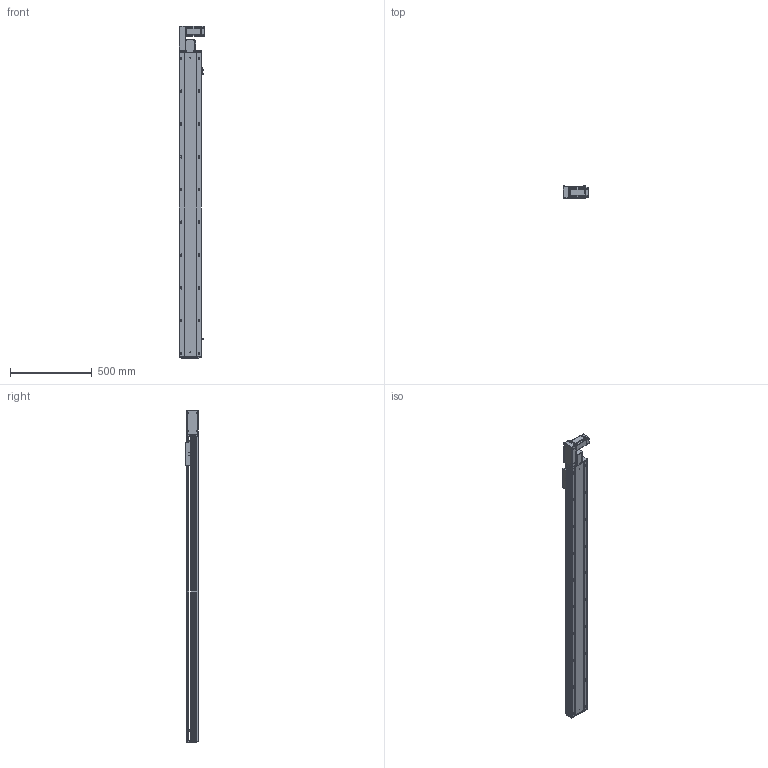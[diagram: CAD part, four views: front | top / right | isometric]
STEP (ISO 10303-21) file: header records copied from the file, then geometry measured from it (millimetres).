
FILE_DESCRIPTION (( 'STEP AP203' ), '1' );
FILE_NAME ('RY140-T-300-LK.SLDASM_1600.step', '2021-03-01T06:36:26', ( '盈信电脑' ), ( '东莞市道滘镇水果街19号' ), 'SwSTEP 2.0', 'SolidWorks 2012', '' );
FILE_SCHEMA (( 'CONFIG_CONTROL_DESIGN' ));
Products named in the file (18): RY140-T-300-LK.SLDASM_1600; RY140-T翋肮謫裔啣; 滅袉蝶18-10; RY120-T蹟翐M4; RY140-T萇儂欶; 侂狟400W侜督萇儂; RY140-T萇儂假蚾啣; RY120-T主同步轮轴承压盖; 15; RY120-T肮祭湍揤踡輸1; RY140-T翋肮祭謫盓傅釱; RY120-T肮祭湍揤踡輸2; RY120外置感应片(140共用）; RY140肮祭謫臏賑輸; 覜茼ん672; RY140-T-300-DL倰第奻裔啣_1600; RY140綴裔啣; RY140-T-300-DL倰第菁釱_1600
Assembly tree (23 placements, depth 3):
  RY140-T-300-LK.SLDASM_1600
    RY140-T-300-DL倰第菁釱_1600
    RY140肮祭謫臏賑輸
    RY140-T-300-DL倰第奻裔啣_1600
    RY140綴裔啣
    覜茼ん672  x3
    RY120外置感应片(140共用）
    RY120-T肮祭湍揤踡輸2
    RY120-T肮祭湍揤踡輸1
    RY140-T翋肮祭謫盓傅釱
    RY140-T萇儂假蚾啣
    侂狟400W侜督萇儂
      15
    RY120-T主同步轮轴承压盖
    RY120-T蹟翐M4  x4
    RY140-T萇儂欶
    滅袉蝶18-10  x2
    RY140-T翋肮謫裔啣
Bounding box: 157 x 78 x 2026.5 mm (x, y, z)
Volume: 5431889.4 mm3; surface area: 2110103.6 mm2
Topology: 22 solids, 22 shells, 2803 faces, 7689 edges, 4906 vertices
Faces by surface type: plane 1385, cylinder 1056, cone 262, bspline 100
Entity records: 88645 total; most frequent: CARTESIAN_POINT 21553, ORIENTED_EDGE 13778, DIRECTION 13153, EDGE_CURVE 6889, VERTEX_POINT 4505, AXIS2_PLACEMENT_3D 4404, VECTOR 4345, LINE 4345
